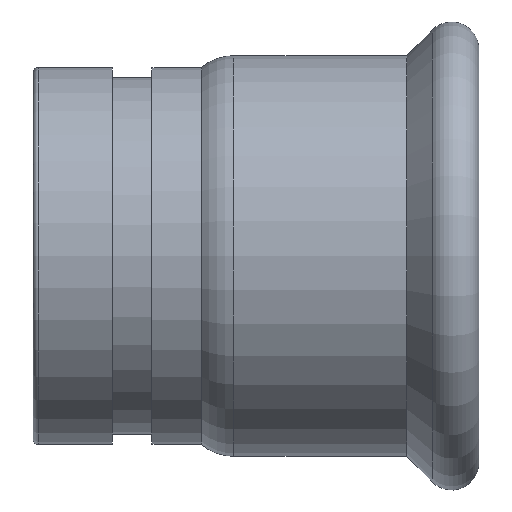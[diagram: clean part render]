
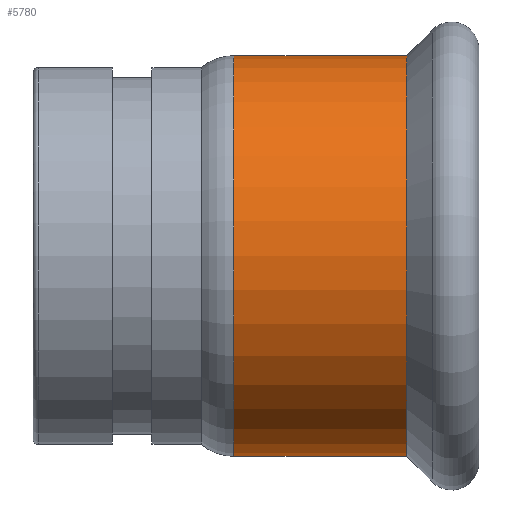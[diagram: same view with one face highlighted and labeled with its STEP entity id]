
A CAD part, top view. The second image highlights one B-rep face of the part: STEP entity #5780.
In plain terms, the highlighted cylindrical face has radius 40.45 mm (diameter 80.9 mm), a partial arc.
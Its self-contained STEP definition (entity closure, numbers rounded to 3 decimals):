
#3360=CARTESIAN_POINT('',(84.737,0.,0.));
#3370=DIRECTION('',(1.,0.,0.));
#3380=DIRECTION('',(0.,-1.,0.));
#3390=AXIS2_PLACEMENT_3D('',#3360,#3370,#3380);
#3400=CYLINDRICAL_SURFACE('',#3390,40.45);
#3410=CARTESIAN_POINT('',(84.737,40.45,0.))
;
#3420=DIRECTION('',(1.,0.,0.));
#3430=VECTOR('',#3420,1.);
#3440=LINE('',#3410,#3430);
#3450=CARTESIAN_POINT('',(51.228,40.45,0.));
#3460=VERTEX_POINT('',#3450);
#3470=CARTESIAN_POINT('',(86.15,40.45,0.));
#3480=VERTEX_POINT('',#3470);
#3490=EDGE_CURVE('',#3460,#3480,#3440,.T.);
#3510=CARTESIAN_POINT('',(51.228,0.,0.));
#3520=DIRECTION('',(1.,0.,0.));
#3530=DIRECTION('',(0.,-1.,0.));
#3540=AXIS2_PLACEMENT_3D('',#3510,#3520,#3530);
#3550=CIRCLE('',#3540,40.45);
#3560=CARTESIAN_POINT('',(51.228,-40.45,0.));
#3570=VERTEX_POINT('',#3560);
#3600=CARTESIAN_POINT('',(84.737,-40.45,0.));
#3610=DIRECTION('',(1.,0.,0.));
#3620=VECTOR('',#3610,1.);
#3630=LINE('',#3600,#3620);
#3640=CARTESIAN_POINT('',(86.15,-40.45,0.));
#3650=VERTEX_POINT('',#3640);
#3660=EDGE_CURVE('',#3570,#3650,#3630,.T.);
#3680=CARTESIAN_POINT('',(86.15,0.,0.));
#3690=DIRECTION('',(1.,0.,0.));
#3700=DIRECTION('',(0.,1.,0.));
#3710=AXIS2_PLACEMENT_3D('',#3680,#3690,#3700);
#3720=CIRCLE('',#3710,40.45);
#4410=EDGE_CURVE('',#3460,#3570,#3550,.T.);
#5710=ORIENTED_EDGE('',*,*,#3490,.F.);
#5720=EDGE_CURVE('',#3480,#3650,#3720,.T.);
#5730=ORIENTED_EDGE('',*,*,#5720,.F.);
#5740=ORIENTED_EDGE('',*,*,#3660,.T.);
#5750=ORIENTED_EDGE('',*,*,#4410,.T.);
#5760=EDGE_LOOP('',(#5750,#5740,#5730,#5710));
#5770=FACE_OUTER_BOUND('',#5760,.T.);
#5780=ADVANCED_FACE('',(#5770),#3400,.T.);
